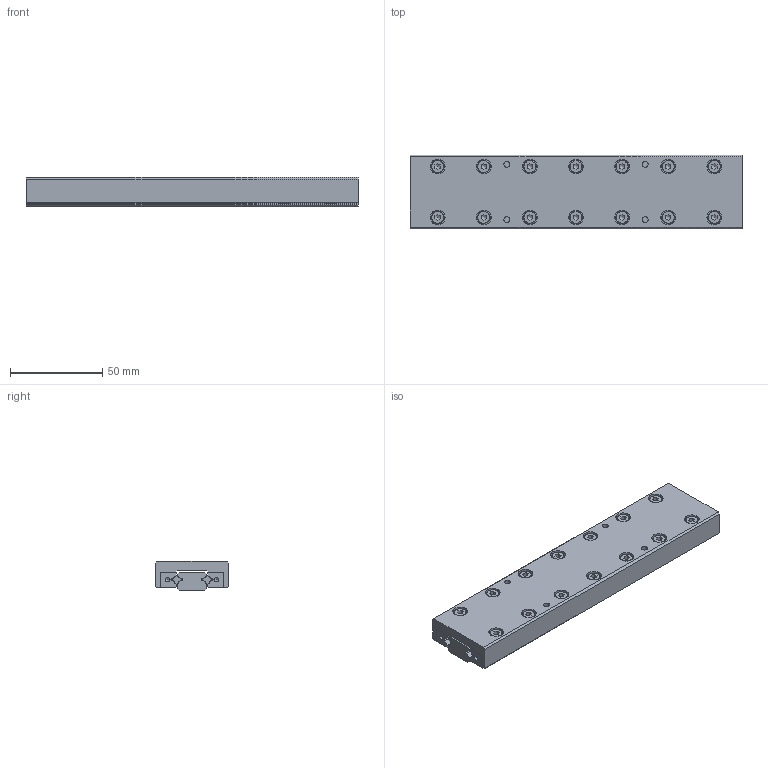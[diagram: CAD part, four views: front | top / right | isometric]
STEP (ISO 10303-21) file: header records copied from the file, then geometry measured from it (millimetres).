
FILE_DESCRIPTION((''),'2;1');
FILE_NAME('D:\製品 (図面)\カタログ用3D\リニアガイド関連\STEP形式\CRT3\CRT3180.stp','2010-07-29T15:50:23',('Tsuchiya'),(''),'Autodesk Inventor 10','Autodesk Inventor 10','');
FILE_SCHEMA(('AUTOMOTIVE_DESIGN { 1 0 10303 214 1 1 1 1 }'));
Length unit declared in the file: millimetre
Products named in the file (5): CRT3180; CRT31801; CRT31802; CRT31803; CRT31804
Assembly tree (4 placements, depth 2):
  CRT3180
    CRT31801
    CRT31802
    CRT31803
    CRT31804
Bounding box: 180 x 40 x 16 mm (x, y, z)
Volume: 95638.5 mm3; surface area: 45234.4 mm2
Topology: 4 solids, 18 shells, 451 faces, 1014 edges, 668 vertices
Faces by surface type: plane 266, bspline 93, cylinder 48, cone 44
Full cylindrical faces by diameter (mm): 2.459 x2, 4 x28, 7 x14
Entity records: 12170 total; most frequent: CARTESIAN_POINT 3177, DIRECTION 1704, ORIENTED_EDGE 1628, EDGE_CURVE 814, EDGE_LOOP 710, VERTEX_POINT 616, AXIS2_PLACEMENT_3D 607, VECTOR 490
